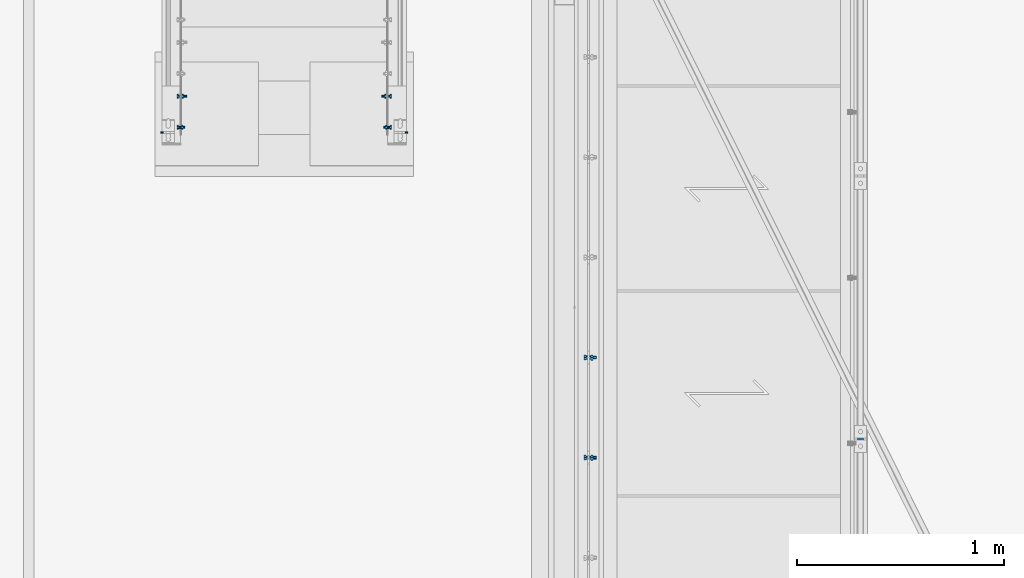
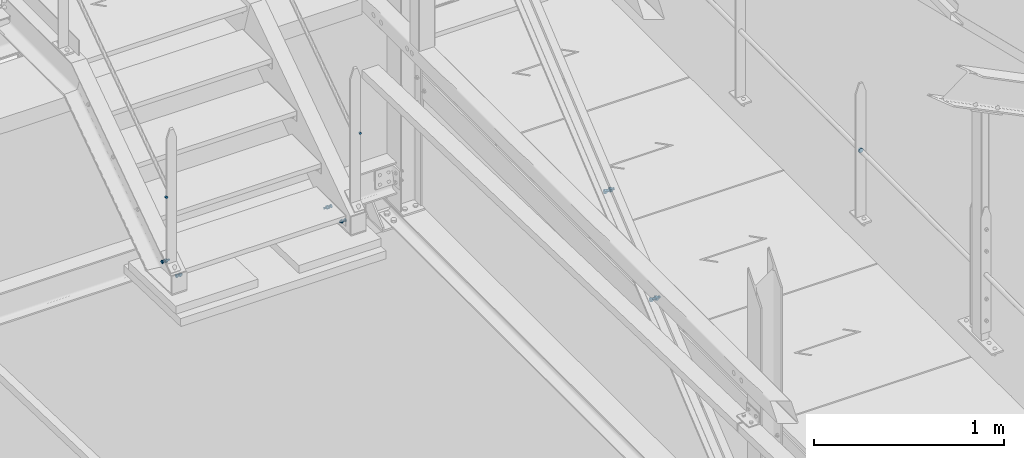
# One storey, part 332 of 362: 9 mechanical fasteners.
"""IFC2X3 building model written with IfcOpenShell, lengths in millimetres."""

import ifcopenshell
import ifcopenshell.guid

model = None  # the IFC model being written
_history = None  # IfcOwnerHistory: only IFC2X3 demands one
_inside = {}  # id of a spatial element -> (the spatial element, [elements in it])
_under = {}  # id of a project, library or spatial element -> (it, [spatial elements below it])
_declared = {}  # id of a project -> (the project, [libraries it declares])
_typed = {}  # id of a type object -> (the type object, [elements of that type])
_made_of = {}  # id of a material, layer set ... -> (it, [elements and type objects made of it])


def new_model(schema):
    """Start an empty IFC model of exactly this schema.

    Asked for "IFC4X3", IfcOpenShell would pick the latest addendum, in which some entities
    have other attributes; the version numbers below select the first issue.
    IFC2X3 requires an IfcOwnerHistory on every rooted entity: one is made here for all.
    """
    global model, _history
    if schema == "IFC4X3":
        model = ifcopenshell.file(schema_version=(4, 3, 0, 0))
    else:
        model = ifcopenshell.file(schema=schema)
    _inside.clear()
    _under.clear()
    _declared.clear()
    _typed.clear()
    _made_of.clear()
    _history = None
    if model.schema == "IFC2X3":
        org = make("IfcOrganization", Name="unknown")
        user = make(
            "IfcPersonAndOrganization",
            ThePerson=make("IfcPerson", FamilyName="unknown"),
            TheOrganization=org,
        )
        app = make(
            "IfcApplication",
            ApplicationDeveloper=org,
            Version="unknown",
            ApplicationFullName="unknown",
            ApplicationIdentifier="unknown",
        )
        _history = make(
            "IfcOwnerHistory",
            OwningUser=user,
            OwningApplication=app,
            ChangeAction="ADDED",
            CreationDate=0,
        )
    return model


def make(cls, **values):
    """One entity of the class cls with the attributes given. An attribute that is None is left unset."""
    return model.create_entity(
        cls, **{name: value for name, value in values.items() if value is not None}
    )


def rooted(cls, **values):
    """An entity with a GlobalId (a new one), such as an element, a storey or a relation."""
    return make(cls, GlobalId=ifcopenshell.guid.new(), OwnerHistory=_history, **values)


def si_unit(unit_type, name, prefix=None):
    """IfcSIUnit, for example si_unit("LENGTHUNIT", "METRE", prefix="MILLI")."""
    return make("IfcSIUnit", UnitType=unit_type, Prefix=prefix, Name=name)


def assignment(units):
    """IfcUnitAssignment: the units of a project."""
    return None if units is None else make("IfcUnitAssignment", Units=units)


def point(xyz):
    """IfcCartesianPoint."""
    return None if xyz is None else make("IfcCartesianPoint", Coordinates=xyz)


def direction(xyz):
    """IfcDirection."""
    return None if xyz is None else make("IfcDirection", DirectionRatios=xyz)


def frame(location, z_axis=None, x_axis=None):
    """IfcAxis2Placement3D, a coordinate frame: its origin and axes. An axis left out is left unset."""
    return make(
        "IfcAxis2Placement3D",
        Location=point(location),
        Axis=direction(z_axis),
        RefDirection=direction(x_axis),
    )


def frame_2d(location, x_axis=None):
    """IfcAxis2Placement2D, a coordinate frame in the plane: its origin and x axis."""
    return make(
        "IfcAxis2Placement2D", Location=point(location), RefDirection=direction(x_axis)
    )


def origin_with_axes():
    """The frame at (0, 0, 0) with the z axis (0, 0, 1) and the x axis (1, 0, 0) written out."""
    return frame((0.0, 0.0, 0.0), z_axis=(0.0, 0.0, 1.0), x_axis=(1.0, 0.0, 0.0))


def origin_2d_with_axis():
    """The frame at (0, 0) in the plane with the x axis (1, 0) written out."""
    return frame_2d((0.0, 0.0), x_axis=(1.0, 0.0))


def place(relative_to, where):
    """IfcLocalPlacement: puts the frame where relative to a parent placement (None: the world)."""
    return make(
        "IfcLocalPlacement", PlacementRelTo=relative_to, RelativePlacement=where
    )


def context(
    kind, dimensions, precision=None, world=None, true_north=None, identifier=None
):
    """IfcGeometricRepresentationContext, for example the 3D "Model" context."""
    return make(
        "IfcGeometricRepresentationContext",
        ContextIdentifier=identifier,
        ContextType=kind,
        CoordinateSpaceDimension=dimensions,
        Precision=precision,
        WorldCoordinateSystem=world,
        TrueNorth=true_north,
    )


def subcontext(parent, identifier, kind, view, scale=None):
    """IfcGeometricRepresentationSubContext, for example "Body" below "Model"."""
    return make(
        "IfcGeometricRepresentationSubContext",
        ContextIdentifier=identifier,
        ContextType=kind,
        ParentContext=parent,
        TargetScale=scale,
        TargetView=view,
    )


def project(units=None, contexts=None):
    """IfcProject with its units and contexts."""
    return rooted(
        "IfcProject",
        Name="project",
        RepresentationContexts=contexts,
        UnitsInContext=assignment(units),
    )


def spatial(cls, under=None, at=None, **own):
    """A site, building, storey or space (cls), placed at a placement, below another one or the project."""
    s = rooted(cls, ObjectPlacement=at, **own)
    if under is not None:
        _under.setdefault(under.id(), (under, []))[1].append(s)
    return s


def polyline(points):
    """IfcPolyline through the points."""
    return make("IfcPolyline", Points=[point(p) for p in points])


def circle_curve(where, radius):
    """IfcCircle in the frame where."""
    return make("IfcCircle", Position=where, Radius=radius)


def parameter(value):
    """IfcParameterValue: where a trimmed curve begins or ends, as a parameter of its basis curve."""
    return model.create_entity("IfcParameterValue", value)


def trimmed(basis, trim1, trim2, sense, master):
    """IfcTrimmedCurve: the piece of a basis curve between two trims."""
    return make(
        "IfcTrimmedCurve",
        BasisCurve=basis,
        Trim1=trim1,
        Trim2=trim2,
        SenseAgreement=sense,
        MasterRepresentation=master,
    )


def segment(curve, same_sense, transition):
    """IfcCompositeCurveSegment."""
    return make(
        "IfcCompositeCurveSegment",
        Transition=transition,
        SameSense=same_sense,
        ParentCurve=curve,
    )


def composite_curve(segments, self_intersect=None):
    """IfcCompositeCurve: segments joined end to end."""
    return make("IfcCompositeCurve", Segments=segments, SelfIntersect=self_intersect)


def profile(cls, at=None, kind="AREA", **sizes):
    """A parametric profile (cls). Its sizes go by their IFC names, for example OverallWidth=200.0."""
    return make(cls, ProfileType=kind, Position=at, **sizes)


def circle(**sizes):
    """IfcCircleProfileDef."""
    return profile("IfcCircleProfileDef", **sizes)


def outline(outer, holes=None, kind="AREA"):
    """IfcArbitraryClosedProfileDef: a profile drawn as a closed curve; with holes, ...WithVoids."""
    if holes is None:
        return make("IfcArbitraryClosedProfileDef", ProfileType=kind, OuterCurve=outer)
    return make(
        "IfcArbitraryProfileDefWithVoids",
        ProfileType=kind,
        OuterCurve=outer,
        InnerCurves=holes,
    )


def extrude(swept, where, along, depth):
    """IfcExtrudedAreaSolid: the profile swept, set in the frame where, extruded along a direction by depth."""
    return make(
        "IfcExtrudedAreaSolid",
        SweptArea=swept,
        Position=where,
        ExtrudedDirection=direction(along),
        Depth=depth,
    )


def shape(context_of_items, identifier, shape_type, items):
    """IfcShapeRepresentation: the items that make up one representation, for example the "Body"."""
    return make(
        "IfcShapeRepresentation",
        ContextOfItems=context_of_items,
        RepresentationIdentifier=identifier,
        RepresentationType=shape_type,
        Items=items,
    )


def source(mapping_origin, context_of_items, identifier, shape_type, items):
    """IfcRepresentationMap: a shape defined once, which mapped items show again and again."""
    return make(
        "IfcRepresentationMap",
        MappingOrigin=mapping_origin,
        MappedRepresentation=shape(context_of_items, identifier, shape_type, items),
    )


def transform(
    local_origin,
    x_axis=None,
    y_axis=None,
    z_axis=None,
    scale=None,
    scale2=None,
    scale3=None,
    uniform=True,
):
    """IfcCartesianTransformationOperator3D, or its non-uniform kind. x_axis, y_axis, z_axis: its Axis1, 2, 3."""
    if uniform:
        return make(
            "IfcCartesianTransformationOperator3D",
            Axis1=direction(x_axis),
            Axis2=direction(y_axis),
            LocalOrigin=point(local_origin),
            Scale=scale,
            Axis3=direction(z_axis),
        )
    return make(
        "IfcCartesianTransformationOperator3DnonUniform",
        Axis1=direction(x_axis),
        Axis2=direction(y_axis),
        LocalOrigin=point(local_origin),
        Scale=scale,
        Axis3=direction(z_axis),
        Scale2=scale2,
        Scale3=scale3,
    )


def mapped(mapping_source, mapping_target):
    """IfcMappedItem: shows the shape of a source again, moved by a transform."""
    return make(
        "IfcMappedItem", MappingSource=mapping_source, MappingTarget=mapping_target
    )


def material(Name=None, Category=None):
    """IfcMaterial."""
    return make("IfcMaterial", Name=Name, Category=Category)


def made_of(thing, what):
    """Note that an element or type object is made of a material, layer set ...; save() writes the relation."""
    if what is not None:
        _made_of.setdefault(what.id(), (what, []))[1].append(thing)
    return thing


def type_object(cls, material=None, **own):
    """A type object (cls), such as IfcWallType, which elements share."""
    return made_of(rooted(cls, **own), material)


def element(
    cls,
    number,
    at=None,
    inside=None,
    cuts=None,
    type_object=None,
    material=None,
    context=None,
    identifier="Body",
    shape_type=None,
    held_by="IfcProductDefinitionShape",
    body=None,
    shapes=None,
    **own,
):
    """One element of the class cls, such as IfcWall. Its Tag is "e" and its number.

    at: its placement. inside: the storey or other place that contains it. cuts: it is an
    opening in that element (IfcRelVoidsElement). A single representation is given by context,
    identifier, shape_type and body (its items); several are given by shapes. held_by: the class
    of the entity that holds the representations. save() writes the other relations.
    """
    e = rooted(cls, Tag="e%d" % number, ObjectPlacement=at, **own)
    if body is not None:
        shapes = [shape(context, identifier, shape_type, body)]
    if shapes is not None:
        e.Representation = make(held_by, Representations=shapes)
    if inside is not None:
        _inside.setdefault(inside.id(), (inside, []))[1].append(e)
    if cuts is not None:
        rooted(
            "IfcRelVoidsElement", RelatingBuildingElement=cuts, RelatedOpeningElement=e
        )
    if type_object is not None:
        _typed.setdefault(type_object.id(), (type_object, []))[1].append(e)
    return made_of(e, material)


def aggregate(whole, parts):
    """IfcRelAggregates: a whole, such as a stair, and the parts it consists of."""
    return rooted("IfcRelAggregates", RelatingObject=whole, RelatedObjects=parts)


def save(model, path):
    """Write the relations noted so far, then the file.

    IfcRelAggregates (storeys below a building ...), IfcRelContainedInSpatialStructure (elements
    in a storey), IfcRelDefinesByType, IfcRelAssociatesMaterial and IfcRelDeclares: one each for
    every whole, place, type object, material and project.
    """
    for whole, parts in _under.values():
        aggregate(whole, parts)
    for where, things in _inside.values():
        rooted(
            "IfcRelContainedInSpatialStructure",
            RelatedElements=things,
            RelatingStructure=where,
        )
    for kind, things in _typed.values():
        rooted("IfcRelDefinesByType", RelatedObjects=things, RelatingType=kind)
    for what, things in _made_of.values():
        rooted("IfcRelAssociatesMaterial", RelatedObjects=things, RelatingMaterial=what)
    for by, libraries in _declared.values():
        rooted("IfcRelDeclares", RelatingContext=by, RelatedDefinitions=libraries)
    model.write(path)


model = new_model("IFC2X3")

# Units and contexts
model_context = context("Model", 3, precision=1e-05, world=origin_with_axes())
body_context = subcontext(model_context, "Body", "Model", "MODEL_VIEW")
ifc_project = project(units=[si_unit("LENGTHUNIT", "METRE", prefix="MILLI"), si_unit("AREAUNIT", "SQUARE_METRE"), si_unit("VOLUMEUNIT", "CUBIC_METRE"), si_unit("MASSUNIT", "GRAM", prefix="KILO"), si_unit("TIMEUNIT", "SECOND"), si_unit("PLANEANGLEUNIT", "RADIAN"), si_unit("SOLIDANGLEUNIT", "STERADIAN"), si_unit("THERMODYNAMICTEMPERATUREUNIT", "DEGREE_CELSIUS"), si_unit("LUMINOUSINTENSITYUNIT", "LUMEN")], contexts=[model_context])

# Site, building, storey
site_placement = place(None, origin_with_axes())
site = spatial("IfcSite", under=ifc_project, at=site_placement, Name="Undefined", CompositionType="ELEMENT")
building_placement = place(site_placement, origin_with_axes())
building = spatial("IfcBuilding", under=site, at=building_placement, Name="Undefined", CompositionType="ELEMENT")
storey_placement = place(building_placement, origin_with_axes())
storey = spatial("IfcBuildingStorey", under=building, at=storey_placement, Name="Undefined", CompositionType="ELEMENT", Elevation=0.0)

# Mechanical fasteners
ifc_material_1 = material(Name="6.8")
mechanical_fastener_type = type_object("IfcMechanicalFastenerType", Name="Bolt assembly")
shared_shape_1 = source(origin_with_axes(), body_context, "Body", "SweptSolid", [
    extrude(circle(Radius=7.0, at=origin_2d_with_axis()), frame((0.0, 0.000125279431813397, 0.0), z_axis=(0.0, 1.0, 0.0), x_axis=(1.0, 0.0, 0.0)), (0.0, 0.0, 1.0), 10.1),
])
for number, where, z_axis, x_axis, name in (
    (1, (32219.9864722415, 14149.9999163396, 8654.59997578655), (0.0, 0.0, -1.0), (1.0, 0.0, 0.0), "Bolt assembly"),
    (2, (33399.9935277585, 14149.9999163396, 8654.59997578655), (0.0, 0.0, 1.0), (-1.0, 0.0, 0.0), "Bolt assembly"),
):
    element("IfcMechanicalFastener", number, at=place(storey_placement, frame(where, z_axis=z_axis, x_axis=x_axis)), inside=storey, type_object=mechanical_fastener_type, material=ifc_material_1, Name=name, NominalDiameter=12.0, NominalLength=10.0, context=body_context, shape_type="MappedRepresentation", body=[
        mapped(shared_shape_1, transform((0.0, 0.0, 0.0))),
    ])
ifc_material_2 = material(Name="8.8-SB-GALVA")
shared_shape_2 = source(origin_with_axes(), body_context, "Body", "SweptSolid", [
    extrude(circle(Radius=7.0, at=origin_2d_with_axis()), frame((0.0, -9.89886282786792, 0.0), z_axis=(0.0, 1.0, 0.0), x_axis=(1.0, 0.0, 0.0)), (0.0, 0.0, 1.0), 10.0),
    extrude(circle(Radius=7.0, at=origin_2d_with_axis()), frame((0.0, -0.100011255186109, 0.0), z_axis=(0.0, 1.0, 0.0), x_axis=(1.0, 0.0, 0.0)), (0.0, 0.0, 1.0), 3.1),
    extrude(outline(polyline([(10.39230484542, 0.0), (5.19615242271, 9.00000000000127), (-5.19615242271, 9.00000000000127), (-10.39230484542, 0.0), (-5.19615242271, -9.00000000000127), (5.19615242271, -9.00000000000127), (10.39230484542, 0.0)])), frame((0.0, -17.9188628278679, 0.0), z_axis=(0.0, 1.0, 0.0), x_axis=(1.0, 0.0, 0.0)), (0.0, 0.0, 1.0), 7.92),
    extrude(circle(Radius=6.0, at=origin_2d_with_axis()), frame((0.0, -9.99886282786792, 0.0), z_axis=(0.0, 1.0, 0.0), x_axis=(1.0, 0.0, 0.0)), (0.0, 0.0, 1.0), 30.0),
    extrude(outline(polyline([(11.5008173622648, 0.0), (5.7504086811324, 9.96000000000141), (-5.7504086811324, 9.96000000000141), (-11.5008173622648, 0.0), (-5.7504086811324, -9.96000000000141), (5.7504086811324, -9.96000000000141), (11.5008173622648, 0.0)])), frame((0.0, 3.00000067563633, 0.0), z_axis=(0.0, 1.0, 0.0), x_axis=(1.0, 0.0, 0.0)), (0.0, 0.0, 1.0), 7.92),
])
mechanical_fastener_1_placement = place(storey_placement, frame((33309.9947340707, 14169.9997910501, 8105.0000000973), z_axis=(0.0, 0.0, 1.0), x_axis=(0.0, 1.0, 0.0)))
element("IfcMechanicalFastener", 3, at=mechanical_fastener_1_placement, inside=storey, type_object=mechanical_fastener_type, material=ifc_material_2, Name="Bolt assembly", NominalDiameter=12.0, NominalLength=30.0, context=body_context, shape_type="MappedRepresentation", body=[
    mapped(shared_shape_2, transform((0.0, 0.0, 0.0))),
])
shared_shape_3 = source(origin_with_axes(), body_context, "Body", "SweptSolid", [
    extrude(circle(Radius=7.0, at=origin_2d_with_axis()), frame((0.0, -9.88833050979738, 0.0), z_axis=(0.0, 1.0, 0.0), x_axis=(1.0, 0.0, 0.0)), (0.0, 0.0, 1.0), 10.0),
    extrude(circle(Radius=7.0, at=origin_2d_with_axis()), frame((0.0, -0.100011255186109, 0.0), z_axis=(0.0, 1.0, 0.0), x_axis=(1.0, 0.0, 0.0)), (0.0, 0.0, 1.0), 3.1),
    extrude(outline(polyline([(10.39230484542, 0.0), (5.19615242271, 9.00000000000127), (-5.19615242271, 9.00000000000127), (-10.39230484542, 0.0), (-5.19615242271, -9.00000000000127), (5.19615242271, -9.00000000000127), (10.39230484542, 0.0)])), frame((0.0, -17.9083305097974, 0.0), z_axis=(0.0, 1.0, 0.0), x_axis=(1.0, 0.0, 0.0)), (0.0, 0.0, 1.0), 7.92),
    extrude(circle(Radius=6.0, at=origin_2d_with_axis()), frame((0.0, -9.98833050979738, 0.0), z_axis=(0.0, 1.0, 0.0), x_axis=(1.0, 0.0, 0.0)), (0.0, 0.0, 1.0), 30.0),
    extrude(outline(polyline([(11.5008173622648, 0.0), (5.7504086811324, 9.96000000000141), (-5.7504086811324, 9.96000000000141), (-11.5008173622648, 0.0), (-5.7504086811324, -9.96000000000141), (5.7504086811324, -9.96000000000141), (11.5008173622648, 0.0)])), frame((0.0, 3.00000067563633, 0.0), z_axis=(0.0, 1.0, 0.0), x_axis=(1.0, 0.0, 0.0)), (0.0, 0.0, 1.0), 7.92),
])
mechanical_fastener_2_placement = place(storey_placement, frame((32309.9947340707, 14169.9997910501, 8105.0000000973), z_axis=(0.0, 0.0, -1.0), x_axis=(0.0, 1.0, 0.0)))
element("IfcMechanicalFastener", 4, at=mechanical_fastener_2_placement, inside=storey, type_object=mechanical_fastener_type, material=ifc_material_2, Name="Bolt assembly", NominalDiameter=12.0, NominalLength=30.0, context=body_context, shape_type="MappedRepresentation", body=[
    mapped(shared_shape_3, transform((0.0, 0.0, 0.0))),
])
shared_shape_4 = source(origin_with_axes(), body_context, "Body", "SweptSolid", [
    extrude(circle(Radius=7.0, at=origin_2d_with_axis()), frame((0.0, -9.88833050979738, 0.0), z_axis=(0.0, 1.0, 0.0), x_axis=(1.0, 0.0, 0.0)), (0.0, 0.0, 1.0), 10.0),
    extrude(outline(composite_curve([segment(polyline([(-7.0, 7.0), (7.0, 7.0)]), True, "CONTINUOUS"), segment(trimmed(circle_curve(frame_2d((7.0, 0.0), x_axis=(0.0, 1.0)), 7.0), [parameter(0.0)], [parameter(3.14159265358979)], False, "PARAMETER"), True, "CONTINUOUS"), segment(polyline([(7.0, -7.0), (-7.0, -7.0)]), True, "CONTINUOUS"), segment(trimmed(circle_curve(frame_2d((-7.0, 0.0), x_axis=(0.0, -1.0)), 7.0), [parameter(0.0)], [parameter(3.14159265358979)], False, "PARAMETER"), True, "DISCONTINUOUS")], self_intersect=False)), frame((0.0, -0.100011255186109, 0.0), z_axis=(0.0, 1.0, 0.0), x_axis=(1.0, 0.0, 0.0)), (0.0, 0.0, 1.0), 3.1),
    extrude(outline(polyline([(10.39230484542, 0.0), (5.19615242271, 9.00000000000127), (-5.19615242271, 9.00000000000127), (-10.39230484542, 0.0), (-5.19615242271, -9.00000000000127), (5.19615242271, -9.00000000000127), (10.39230484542, 0.0)])), frame((0.0, -17.9083305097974, 0.0), z_axis=(0.0, 1.0, 0.0), x_axis=(1.0, 0.0, 0.0)), (0.0, 0.0, 1.0), 7.92),
    extrude(circle(Radius=6.0, at=origin_2d_with_axis()), frame((0.0, -9.98833050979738, 0.0), z_axis=(0.0, 1.0, 0.0), x_axis=(1.0, 0.0, 0.0)), (0.0, 0.0, 1.0), 40.0),
    extrude(circle(Radius=10.8, at=origin_2d_with_axis()), frame((0.0, 3.00000067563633, 0.0), z_axis=(0.0, 1.0, 0.0), x_axis=(1.0, 0.0, 0.0)), (0.0, 0.0, 1.0), 3.96),
    extrude(outline(polyline([(11.5008173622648, 0.0), (5.7504086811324, 9.96000000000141), (-5.7504086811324, 9.96000000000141), (-11.5008173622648, 0.0), (-5.7504086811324, -9.96000000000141), (5.7504086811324, -9.96000000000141), (11.5008173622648, 0.0)])), frame((0.0, 6.96, 0.0), z_axis=(0.0, 1.0, 0.0), x_axis=(1.0, 0.0, 0.0)), (0.0, 0.0, 1.0), 7.92),
])
mechanical_fastener_3_placement = place(storey_placement, frame((32309.9947340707, 14319.9997910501, 8105.0000000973), z_axis=(0.0, 0.0, -1.0), x_axis=(0.0, 1.0, 0.0)))
element("IfcMechanicalFastener", 5, at=mechanical_fastener_3_placement, inside=storey, type_object=mechanical_fastener_type, material=ifc_material_2, Name="Bolt assembly", NominalDiameter=12.0, NominalLength=40.0, context=body_context, shape_type="MappedRepresentation", body=[
    mapped(shared_shape_4, transform((0.0, 0.0, 0.0))),
])
shared_shape_5 = source(origin_with_axes(), body_context, "Body", "SweptSolid", [
    extrude(circle(Radius=7.0, at=origin_2d_with_axis()), frame((0.0, -9.89886282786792, 0.0), z_axis=(0.0, 1.0, 0.0), x_axis=(1.0, 0.0, 0.0)), (0.0, 0.0, 1.0), 10.0),
    extrude(outline(composite_curve([segment(polyline([(-7.0, 7.0), (7.0, 7.0)]), True, "CONTINUOUS"), segment(trimmed(circle_curve(frame_2d((7.0, 0.0), x_axis=(0.0, 1.0)), 7.0), [parameter(0.0)], [parameter(3.14159265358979)], False, "PARAMETER"), True, "CONTINUOUS"), segment(polyline([(7.0, -7.0), (-7.0, -7.0)]), True, "CONTINUOUS"), segment(trimmed(circle_curve(frame_2d((-7.0, 0.0), x_axis=(0.0, -1.0)), 7.0), [parameter(0.0)], [parameter(3.14159265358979)], False, "PARAMETER"), True, "DISCONTINUOUS")], self_intersect=False)), frame((0.0, -0.100011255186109, 0.0), z_axis=(0.0, 1.0, 0.0), x_axis=(1.0, 0.0, 0.0)), (0.0, 0.0, 1.0), 3.1),
    extrude(outline(polyline([(10.39230484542, 0.0), (5.19615242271, 9.00000000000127), (-5.19615242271, 9.00000000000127), (-10.39230484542, 0.0), (-5.19615242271, -9.00000000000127), (5.19615242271, -9.00000000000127), (10.39230484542, 0.0)])), frame((0.0, -17.9188628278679, 0.0), z_axis=(0.0, 1.0, 0.0), x_axis=(1.0, 0.0, 0.0)), (0.0, 0.0, 1.0), 7.92),
    extrude(circle(Radius=6.0, at=origin_2d_with_axis()), frame((0.0, -9.99886282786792, 0.0), z_axis=(0.0, 1.0, 0.0), x_axis=(1.0, 0.0, 0.0)), (0.0, 0.0, 1.0), 40.0),
    extrude(circle(Radius=10.8, at=origin_2d_with_axis()), frame((0.0, 3.00000067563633, 0.0), z_axis=(0.0, 1.0, 0.0), x_axis=(1.0, 0.0, 0.0)), (0.0, 0.0, 1.0), 3.96),
    extrude(outline(polyline([(11.5008173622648, 0.0), (5.7504086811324, 9.96000000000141), (-5.7504086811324, 9.96000000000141), (-11.5008173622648, 0.0), (-5.7504086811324, -9.96000000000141), (5.7504086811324, -9.96000000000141), (11.5008173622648, 0.0)])), frame((0.0, 6.96, 0.0), z_axis=(0.0, 1.0, 0.0), x_axis=(1.0, 0.0, 0.0)), (0.0, 0.0, 1.0), 7.92),
])
mechanical_fastener_4_placement = place(storey_placement, frame((33309.9947340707, 14319.9997910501, 8105.0000000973), z_axis=(0.0, 0.0, 1.0), x_axis=(0.0, 1.0, 0.0)))
element("IfcMechanicalFastener", 6, at=mechanical_fastener_4_placement, inside=storey, type_object=mechanical_fastener_type, material=ifc_material_2, Name="Bolt assembly", NominalDiameter=12.0, NominalLength=40.0, context=body_context, shape_type="MappedRepresentation", body=[
    mapped(shared_shape_5, transform((0.0, 0.0, 0.0))),
])
ifc_material_3 = material(Name="8.8-SB-ZINGUE")
shared_shape_6 = source(origin_with_axes(), body_context, "Body", "SweptSolid", [
    extrude(circle(Radius=9.0, at=origin_2d_with_axis()), frame((0.0, -10.9000000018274, 0.0), z_axis=(0.0, 1.0, 0.0), x_axis=(1.0, 0.0, 0.0)), (0.0, 0.0, 1.0), 6.0),
    extrude(circle(Radius=9.0, at=origin_2d_with_axis()), frame((0.0, 4.9000000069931, 0.0), z_axis=(0.0, 1.0, 0.0), x_axis=(1.0, 0.0, 0.0)), (0.0, 0.0, 1.0), 6.1),
    extrude(circle(Radius=9.0, at=origin_2d_with_axis()), frame((0.0, -3.99999923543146, 0.0), z_axis=(0.0, 1.0, 0.0), x_axis=(1.0, 0.0, 0.0)), (0.0, 0.0, 1.0), 8.0),
    extrude(outline(polyline([(13.85640646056, 0.0), (6.92820323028, 12.0000000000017), (-6.92820323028, 12.0000000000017), (-13.85640646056, 0.0), (-6.92820323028, -12.0000000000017), (6.92820323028, -12.0000000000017), (13.85640646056, 0.0)])), frame((0.0, -21.5600000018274, 0.0), z_axis=(0.0, 1.0, 0.0), x_axis=(1.0, 0.0, 0.0)), (0.0, 0.0, 1.0), 10.56),
    extrude(circle(Radius=8.0, at=origin_2d_with_axis()), frame((0.0, -11.0000000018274, 0.0), z_axis=(0.0, 1.0, 0.0), x_axis=(1.0, 0.0, 0.0)), (0.0, 0.0, 1.0), 50.0),
    extrude(outline(polyline([(15.3344231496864, 0.0), (7.6672115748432, 13.2800000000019), (-7.6672115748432, 13.2800000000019), (-15.3344231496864, 0.0), (-7.6672115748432, -13.2800000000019), (7.6672115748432, -13.2800000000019), (15.3344231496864, 0.0)])), frame((0.0, 11.0000000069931, 0.0), z_axis=(0.0, 1.0, 0.0), x_axis=(1.0, 0.0, 0.0)), (0.0, 0.0, 1.0), 10.56),
])
for number, where, z_axis, x_axis, name in (
    (7, (34280.0, 12574.535615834, 8230.73723767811), (0.0, 1.0, 0.0), (0.0, 0.0, 1.0), "Bolt assembly"),
    (8, (34280.0, 13058.1785389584, 8634.57907886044), (0.0, 1.0, 0.0), (0.0, 0.0, 1.0), "Bolt assembly"),
):
    element("IfcMechanicalFastener", number, at=place(storey_placement, frame(where, z_axis=z_axis, x_axis=x_axis)), inside=storey, type_object=mechanical_fastener_type, material=ifc_material_3, Name=name, NominalDiameter=16.0, NominalLength=50.0, context=body_context, shape_type="MappedRepresentation", body=[
        mapped(shared_shape_6, transform((0.0, 0.0, 0.0))),
    ])
shared_shape_7 = source(origin_with_axes(), body_context, "Body", "SweptSolid", [
    extrude(circle(Radius=14.0, at=origin_2d_with_axis()), frame((0.0, -5.00000000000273, 0.0), z_axis=(0.0, 1.0, 0.0), x_axis=(1.0, 0.0, 0.0)), (0.0, 0.0, 1.0), 10.1),
])
mechanical_fastener_5_placement = place(storey_placement, frame((35593.9917206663, 12665.0034325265, 8673.7999984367), z_axis=(0.0, 0.0, 1.0), x_axis=(-1.0, 0.0, 0.0)))
element("IfcMechanicalFastener", 9, at=mechanical_fastener_5_placement, inside=storey, type_object=mechanical_fastener_type, material=ifc_material_1, Name="Bolt assembly", NominalDiameter=27.0, NominalLength=10.0, context=body_context, shape_type="MappedRepresentation", body=[
    mapped(shared_shape_7, transform((0.0, 0.0, 0.0))),
])

save(model, "model.ifc")
